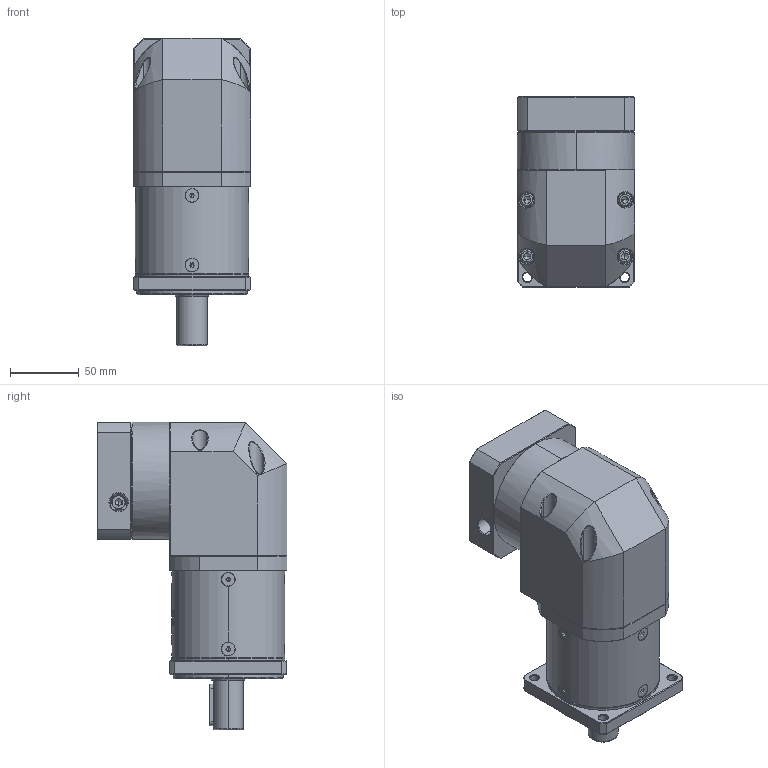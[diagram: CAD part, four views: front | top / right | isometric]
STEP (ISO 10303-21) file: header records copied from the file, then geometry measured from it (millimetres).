
FILE_DESCRIPTION (( 'STEP AP214' ), '1' );
FILE_NAME ('ZFR080-D22-L2-P2-14-73-69.6X69.6-M6.step', '2023-08-25T03:52:56', ( '' ), ( '' ), 'SwSTEP 2.0', 'SolidWorks 2016', '' );
FILE_SCHEMA (( 'AUTOMOTIVE_DESIGN' ));
Length unit declared in the file: millimetre
Products named in the file (1): ZFR080-D22-L2-P2-14-73-69.6X69.6-M6
Bounding box: 85 x 137.6 x 223 mm (x, y, z)
Volume: 1358356.5 mm3; surface area: 140161 mm2
Topology: 13 solids, 13 shells, 2430 faces, 6247 edges, 3923 vertices
Faces by surface type: plane 1194, cylinder 425, bspline 418, cone 359, torus 34
Entity records: 126557 total; most frequent: CARTESIAN_POINT 45985, ORIENTED_EDGE 12402, DIRECTION 9456, EDGE_CURVE 6201, VERTEX_POINT 3923, VECTOR 3356, LINE 3356, AXIS2_PLACEMENT_3D 3050
